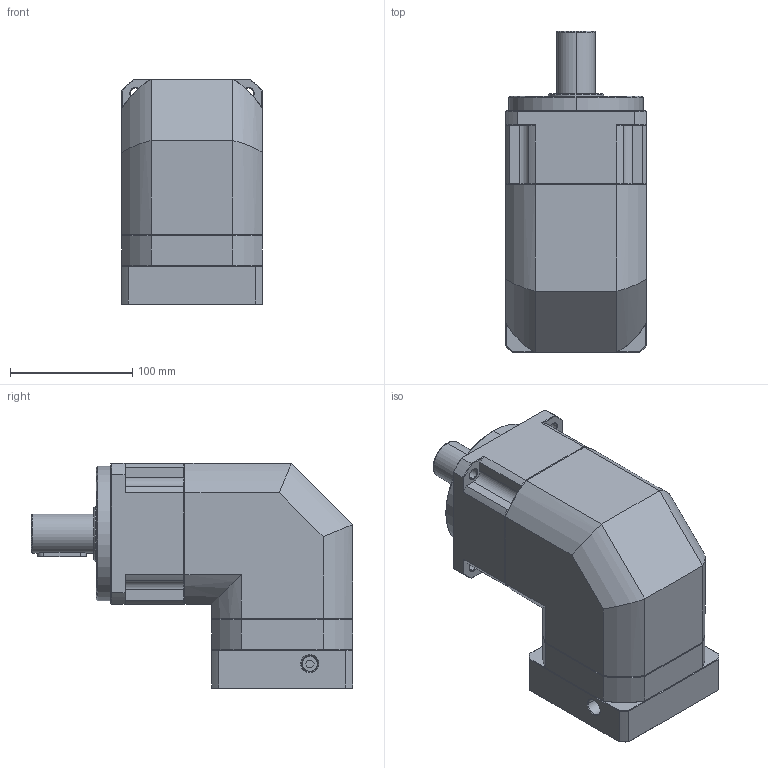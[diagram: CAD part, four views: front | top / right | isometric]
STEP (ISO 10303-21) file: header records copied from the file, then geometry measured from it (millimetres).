
FILE_DESCRIPTION (( 'STEP AP214' ), '1' );
FILE_NAME ('ZPBR115-D32-L1-P1-19-80-100-M6.step', '2024-06-29T08:05:12', ( 'Windows 蚚誧' ), ( 'Organization' ), 'SwSTEP 2.0', 'SolidWorks 2016', '' );
FILE_SCHEMA (( 'AUTOMOTIVE_DESIGN' ));
Length unit declared in the file: millimetre
Products named in the file (1): ZPBR115-D32-L1-P1-19-80-100-M6
Bounding box: 115 x 262.5 x 184.2 mm (x, y, z)
Surface area: 176924.2 mm2 (no closed solid volume)
Topology: 0 solids, 28 shells, 1836 faces, 4980 edges, 3202 vertices
Faces by surface type: plane 932, bspline 381, cone 270, cylinder 253
Full cylindrical faces by diameter (mm): 10.2 x4
Entity records: 98576 total; most frequent: CARTESIAN_POINT 49256, ORIENTED_EDGE 9762, DIRECTION 7459, EDGE_CURVE 4890, LINE 3177, VECTOR 3177, VERTEX_POINT 3138, AXIS2_PLACEMENT_3D 2141
